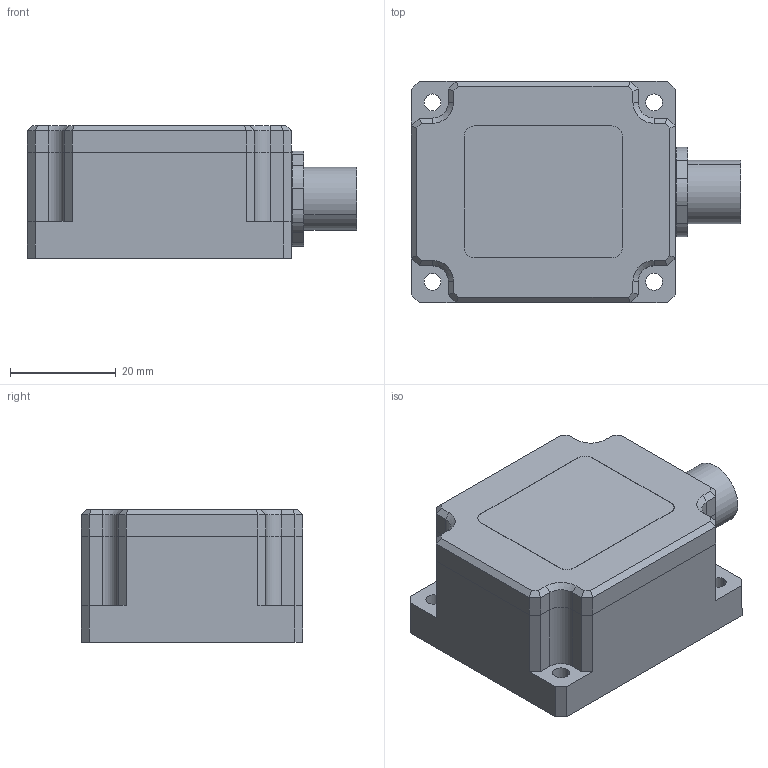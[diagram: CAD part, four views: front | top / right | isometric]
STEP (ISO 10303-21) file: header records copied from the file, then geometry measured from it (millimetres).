
FILE_DESCRIPTION (( 'STEP AP203' ), '1' );
FILE_NAME ('NAV3-CASE-ASM-M12x1.5-GLT.STEP', '2023-12-07T03:57:35', ( '' ), ( '' ), 'SwSTEP 2.0', 'SolidWorks 2014', '' );
FILE_SCHEMA (( 'CONFIG_CONTROL_DESIGN' ));
Length unit declared in the file: millimetre
Products named in the file (4): NAV3-CASE-ASM-M12x1.5-GLT; BASE-M12X1-朴14; TOP; M12-B-Px-M12X1
Assembly tree (3 placements, depth 2):
  NAV3-CASE-ASM-M12x1.5-GLT
    BASE-M12X1-朴14
    TOP
    M12-B-Px-M12X1
Bounding box: 62.4 x 42 x 25.15 mm (x, y, z)
Volume: 22877.5 mm3; surface area: 19177.1 mm2
Topology: 5 solids, 5 shells, 385 faces, 1025 edges, 660 vertices
Faces by surface type: cylinder 185, plane 176, cone 16, torus 8
Entity records: 12395 total; most frequent: DIRECTION 2185, CARTESIAN_POINT 2064, ORIENTED_EDGE 2026, EDGE_CURVE 1013, AXIS2_PLACEMENT_3D 781, VERTEX_POINT 660, VECTOR 623, LINE 623
